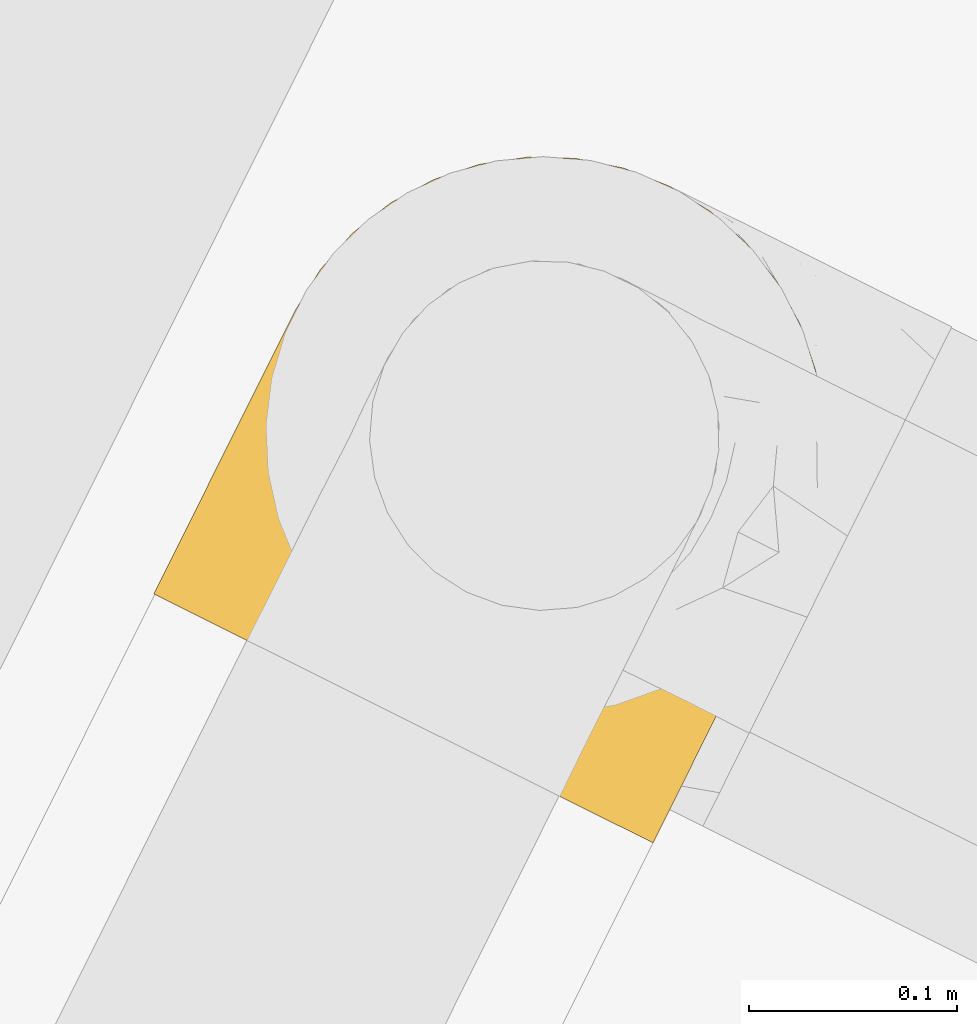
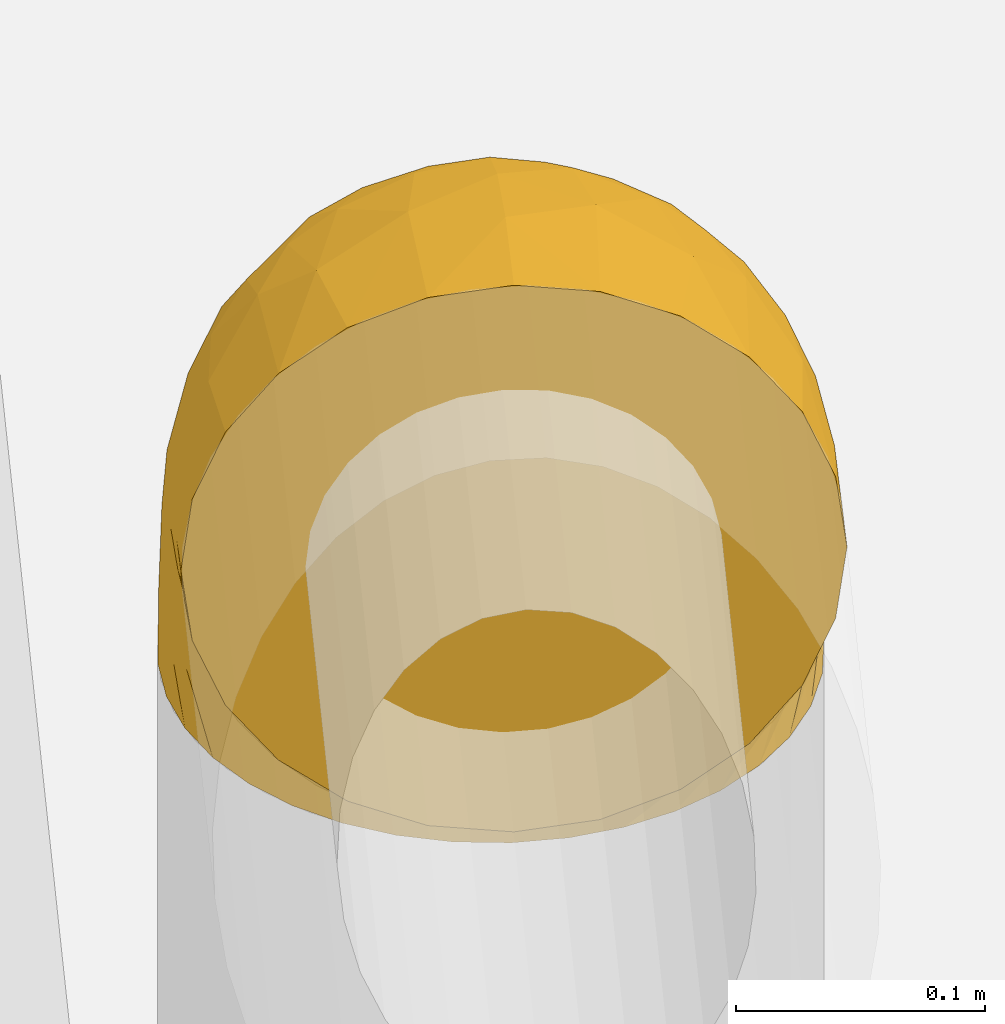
# One storey, part 56 of 91: 1 covering.
"""IFC2X3 building model written with IfcOpenShell, lengths in metres."""

from ifc_helpers import new_model, entity, si_unit, converted_unit, derived_unit, direction, frame, origin, place, context, subcontext, project, spatial, faceted_brep, element, save


model = new_model("IFC2X3")

# Units and contexts
model_context = context("Model", 3, precision=1e-05, world=origin(), true_north=direction((0.894925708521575, 0.446215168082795)))
context_of_model = context(None, 3, precision=1e-05, world=origin(), true_north=direction((0.894925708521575, 0.446215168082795)))
body_context = subcontext(model_context, "Body", "Model", "MODEL_VIEW")
ifc_project = project(units=[si_unit("LENGTHUNIT", "METRE"), si_unit("AREAUNIT", "SQUARE_METRE"), si_unit("VOLUMEUNIT", "CUBIC_METRE"), converted_unit("PLANEANGLEUNIT", "DEGREE", entity("IfcRatioMeasure", 0.0174532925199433), si_unit("PLANEANGLEUNIT", "RADIAN"), dimensions=[0, 0, 0, 0, 0, 0, 0]), si_unit("MASSUNIT", "GRAM", prefix="KILO"), si_unit("TIMEUNIT", "SECOND"), si_unit("FREQUENCYUNIT", "HERTZ"), si_unit("THERMODYNAMICTEMPERATUREUNIT", "DEGREE_CELSIUS"), derived_unit("THERMALTRANSMITTANCEUNIT", [(si_unit("MASSUNIT", "GRAM", prefix="KILO"), 1), (si_unit("THERMODYNAMICTEMPERATUREUNIT", "KELVIN"), -1), (si_unit("TIMEUNIT", "SECOND"), -3)]), derived_unit("VOLUMETRICFLOWRATEUNIT", [(si_unit("LENGTHUNIT", "METRE"), 3), (si_unit("TIMEUNIT", "SECOND"), -1)]), si_unit("ELECTRICCURRENTUNIT", "AMPERE"), si_unit("ELECTRICVOLTAGEUNIT", "VOLT"), si_unit("POWERUNIT", "WATT"), si_unit("FORCEUNIT", "NEWTON", prefix="KILO"), si_unit("ILLUMINANCEUNIT", "LUX"), si_unit("LUMINOUSFLUXUNIT", "LUMEN"), si_unit("LUMINOUSINTENSITYUNIT", "CANDELA"), si_unit("PRESSUREUNIT", "PASCAL")], contexts=[model_context, context_of_model])

# Site, building, storey
site_placement = place(None, frame((218.228324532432, 584.720189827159, 0.0), z_axis=(0.0, 0.0, 1.0), x_axis=(0.446215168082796, 0.894925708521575, 0.0)))
site = spatial("IfcSite", under=ifc_project, at=site_placement, Name="Default", CompositionType="ELEMENT")
building_placement = place(site_placement, origin())
building = spatial("IfcBuilding", under=site, at=building_placement, CompositionType="ELEMENT")
storey_placement = place(building_placement, origin())
storey = spatial("IfcBuildingStorey", under=building, at=storey_placement, Name="0 - Piano Terra", CompositionType="ELEMENT", Elevation=0.0)

# Covering
covering_placement = place(storey_placement, frame((0.503706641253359, -4.52096176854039, 3.74640472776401)))
element("IfcCovering", 1, at=covering_placement, inside=storey, Name="Isolamento tubazione:Default", ObjectType="Isolamento tubazione:Default", PredefinedType="INSULATION", context=body_context, shape_type="Brep", body=[
    faceted_brep([(0.199474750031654, 0.261805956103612, 0.00159527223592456), (0.220669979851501, 0.251922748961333, 0.00159527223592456), (0.23982740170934, 0.238508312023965, 0.00159527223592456), (0.256363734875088, 0.221970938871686, 0.00159527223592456), (0.26977594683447, 0.202814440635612, 0.00159527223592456), (0.279656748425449, 0.181622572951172, 0.00159527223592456), (0.28570743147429, 0.159039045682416, 0.00159527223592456), (0.287745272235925, 0.135745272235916, 0.00159527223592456), (0.285707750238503, 0.112453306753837, 0.00159527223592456), (0.279655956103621, 0.0898657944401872, 0.00159527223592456), (0.269772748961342, 0.0686705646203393, 0.00159527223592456), (0.256358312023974, 0.0495131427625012, 0.00159527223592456), (0.239820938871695, 0.0329768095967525, 0.00159527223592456), (0.220664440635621, 0.0195645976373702, 0.00159527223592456), (0.199472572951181, 0.0096837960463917, 0.00159527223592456), (0.176889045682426, 0.00363311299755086, 0.00159527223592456), (0.153595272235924, 0.0015952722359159, 0.00159527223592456), (0.138898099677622, 0.00288094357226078, 0.00159527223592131), (0.130303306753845, 0.00363279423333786, 0.00159527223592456), (0.107715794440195, 0.00968458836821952, 0.00159527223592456), (0.0865205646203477, 0.0195677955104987, 0.00159527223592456), (0.0673631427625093, 0.0329822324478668, 0.00159527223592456), (0.0508268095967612, 0.0495196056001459, 0.00159527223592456), (0.0374145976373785, 0.06867610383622, 0.00159527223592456), (0.0275337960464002, 0.0898679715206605, 0.00159527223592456), (0.0214831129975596, 0.112451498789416, 0.00159527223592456), (0.0194452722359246, 0.135745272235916, 0.00159527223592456), (0.0214827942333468, 0.159037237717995, 0.00159527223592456), (0.0275345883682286, 0.181624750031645, 0.00159527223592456), (0.0374177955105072, 0.202819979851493, 0.00159527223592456), (0.0508322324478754, 0.221977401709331, 0.00159527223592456), (0.0673696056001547, 0.238513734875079, 0.00159527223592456), (0.0865261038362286, 0.251925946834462, 0.00159527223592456), (0.107717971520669, 0.26180674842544, 0.00159527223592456), (0.130301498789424, 0.267857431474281, 0.00159527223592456), (0.138898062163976, 0.268609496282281, 0.00159527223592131), (0.153595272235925, 0.269895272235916, 0.00159527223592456), (0.176887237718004, 0.267857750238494, 0.00159527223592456), (0.00159527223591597, 0.135745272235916, 0.0194452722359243), (0.00159527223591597, 0.101024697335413, 0.0240163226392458), (0.00159527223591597, 0.0686702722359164, 0.0374179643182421), (0.00159527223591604, 0.0408868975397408, 0.0587368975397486), (0.0015952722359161, 0.0302274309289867, 0.072628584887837), (0.0015952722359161, 0.0195679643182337, 0.0865202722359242), (0.0015952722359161, 0.0128671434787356, 0.102697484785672), (0.00159527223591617, 0.00616632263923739, 0.118874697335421), (0.00159527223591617, 0.00355977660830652, 0.138673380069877), (0.00159527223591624, 0.0015952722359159, 0.153595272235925), (0.00159527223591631, 0.00616632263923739, 0.188315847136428), (0.00159527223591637, 0.0195679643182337, 0.220670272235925), (0.00159527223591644, 0.0408868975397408, 0.2484536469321), (0.00159527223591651, 0.0686702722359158, 0.269772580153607), (0.00159527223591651, 0.101024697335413, 0.283174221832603), (0.00159527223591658, 0.135745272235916, 0.287745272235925), (0.00159527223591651, 0.170465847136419, 0.283174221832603), (0.00159527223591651, 0.202820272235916, 0.269772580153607), (0.00159527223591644, 0.230603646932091, 0.2484536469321), (0.00159527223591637, 0.251922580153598, 0.220670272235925), (0.00159527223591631, 0.265324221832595, 0.188315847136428), (0.00159527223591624, 0.269895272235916, 0.153595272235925), (0.00159527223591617, 0.267930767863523, 0.138673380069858), (0.00159527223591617, 0.265324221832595, 0.118874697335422), (0.0015952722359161, 0.258623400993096, 0.102697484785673), (0.0015952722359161, 0.251922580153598, 0.0865202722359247), (0.00159527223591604, 0.241263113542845, 0.0726285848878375), (0.00159527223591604, 0.230603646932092, 0.0587368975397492), (0.00159527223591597, 0.202820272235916, 0.0374179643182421), (0.00159527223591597, 0.17046584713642, 0.0240163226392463), (0.0793389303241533, 0.173592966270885, 0.271314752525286), (0.0574203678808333, 0.135745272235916, 0.282246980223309), (0.11110013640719, 0.135745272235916, 0.265963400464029), (0.282246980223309, 0.135745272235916, 0.0574203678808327), (0.273936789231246, 0.159717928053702, 0.0820986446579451), (0.265963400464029, 0.135745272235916, 0.111100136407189), (0.251669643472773, 0.170985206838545, 0.130709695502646), (0.241156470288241, 0.200241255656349, 0.125328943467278), (0.219063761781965, 0.173639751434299, 0.179056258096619), (0.138231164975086, 0.167491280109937, 0.248670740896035), (0.124159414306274, 0.199265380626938, 0.242351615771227), (0.057017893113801, 0.255399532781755, 0.206901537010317), (0.188464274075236, 0.212938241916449, 0.184829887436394), (0.21482195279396, 0.223457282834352, 0.138701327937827), (0.191593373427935, 0.243942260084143, 0.133518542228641), (0.0819819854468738, 0.234087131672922, 0.231170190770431), (0.16057169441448, 0.135745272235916, 0.239520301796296), (0.178269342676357, 0.260833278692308, 0.0963262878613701), (0.152774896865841, 0.257743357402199, 0.144150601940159), (0.203933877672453, 0.135745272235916, 0.203933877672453), (0.239520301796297, 0.135745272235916, 0.16057169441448), (0.0926265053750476, 0.262693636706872, 0.174453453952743), (0.0427674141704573, 0.26735249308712, 0.174763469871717), (0.0603098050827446, 0.211715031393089, 0.257512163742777), (0.225253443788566, 0.23685787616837, 0.0890858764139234), (0.106232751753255, 0.251339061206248, 0.195203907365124), (0.0409357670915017, 0.269895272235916, 0.148415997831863), (0.0283269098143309, 0.269895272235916, 0.150075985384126), (0.0157180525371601, 0.269895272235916, 0.151735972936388), (0.0775952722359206, 0.269895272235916, 0.133231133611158), (0.0592655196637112, 0.269895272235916, 0.14082356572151), (0.212298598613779, 0.252999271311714, 0.0542155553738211), (0.175571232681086, 0.186228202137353, 0.216229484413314), (0.181506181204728, 0.159251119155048, 0.221437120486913), (0.142030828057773, 0.266914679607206, 0.114385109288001), (0.247977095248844, 0.225420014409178, 0.0534187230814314), (0.109075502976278, 0.269895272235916, 0.109075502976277), (0.0933353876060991, 0.269895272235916, 0.121153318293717), (0.269211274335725, 0.186827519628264, 0.0692840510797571), (0.156043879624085, 0.208621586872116, 0.216476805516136), (0.123868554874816, 0.235964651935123, 0.209477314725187), (0.150188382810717, 0.244360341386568, 0.178111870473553), (0.162845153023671, 0.267685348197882, 0.0727455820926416), (0.151735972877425, 0.269895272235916, 0.0157180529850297), (0.150075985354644, 0.269895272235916, 0.0283269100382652), (0.148415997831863, 0.269895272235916, 0.0409357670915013), (0.133231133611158, 0.269895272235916, 0.0775952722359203), (0.121153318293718, 0.269895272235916, 0.0933353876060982), (0.115114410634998, 0.269895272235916, 0.101205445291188), (0.239896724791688, 0.21892116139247, 0.0985026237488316), (0.117252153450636, 0.219832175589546, 0.230568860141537), (0.140823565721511, 0.269895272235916, 0.0592655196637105), (0.086233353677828, 0.257440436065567, 0.0459388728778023), (0.108928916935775, 0.26633905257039, 0.0581385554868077), (0.10151694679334, 0.261505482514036, 0.034828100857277), (0.0282177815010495, 0.265515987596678, 0.116556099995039), (0.0488021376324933, 0.267416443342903, 0.118774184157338), (0.0233658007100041, 0.258379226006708, 0.0967572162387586), (0.057055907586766, 0.234200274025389, 0.0267051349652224), (0.0379394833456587, 0.2096322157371, 0.0183768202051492), (0.0175473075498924, 0.247613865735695, 0.0779077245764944), (0.0186508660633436, 0.238549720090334, 0.0651642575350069), (0.0712470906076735, 0.262888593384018, 0.0857137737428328), (0.0188530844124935, 0.16297331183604, 0.0129209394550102), (0.0160462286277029, 0.224278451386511, 0.0507267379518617), (0.030145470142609, 0.228157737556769, 0.0483204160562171), (0.0172767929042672, 0.20377312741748, 0.0344198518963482), (0.0898107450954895, 0.265964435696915, 0.0825972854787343), (0.0128211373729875, 0.172729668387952, 0.0217256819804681), (0.0240178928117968, 0.190556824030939, 0.020854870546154), (0.0412634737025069, 0.229549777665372, 0.0412635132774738), (0.0518606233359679, 0.248264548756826, 0.0624822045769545), (0.0142171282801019, 0.135745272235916, 0.0142171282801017), (0.0478490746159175, 0.228925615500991, 0.0322552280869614), (0.0703790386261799, 0.254010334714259, 0.0575657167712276), (0.0663251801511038, 0.267242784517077, 0.109061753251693), (0.0382210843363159, 0.259428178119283, 0.094700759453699), (0.117739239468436, 0.265732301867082, 0.0267645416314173), (0.11613299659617, 0.266097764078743, 0.0384038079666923), (0.120325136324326, 0.268138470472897, 0.0554200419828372), (0.0725214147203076, 0.244552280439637, 0.0209965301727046), (0.0337025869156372, 0.211919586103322, 0.0280072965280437), (0.10241564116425, 0.266477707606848, 0.0701367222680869), (0.0479963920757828, 0.257840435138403, 0.0861174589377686), (0.0194576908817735, 0.267289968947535, 0.126009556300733), (0.0332297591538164, 0.242459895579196, 0.0648331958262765), (0.0186511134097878, 0.0329408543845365, 0.0651641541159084), (0.0160469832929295, 0.0472120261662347, 0.0507265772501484), (0.0332307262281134, 0.0290300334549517, 0.0648336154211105), (0.0570503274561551, 0.0372947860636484, 0.0267056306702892), (0.0124987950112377, 0.106124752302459, 0.019730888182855), (0.0725165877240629, 0.0269410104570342, 0.0209997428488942), (0.120317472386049, 0.0033531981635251, 0.055420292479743), (0.133231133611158, 0.0015952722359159, 0.0775952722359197), (0.108926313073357, 0.0051513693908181, 0.0581446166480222), (0.0172784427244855, 0.0677158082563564, 0.0344201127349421), (0.0703674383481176, 0.0174874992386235, 0.0575584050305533), (0.0862283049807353, 0.0140509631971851, 0.0459445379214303), (0.0199234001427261, 0.10553101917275, 0.0124412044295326), (0.0240181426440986, 0.0809360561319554, 0.020852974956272), (0.0283269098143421, 0.0015952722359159, 0.150075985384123), (0.0157180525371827, 0.0015952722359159, 0.151735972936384), (0.0712466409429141, 0.00860216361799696, 0.0857133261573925), (0.0518636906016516, 0.0232262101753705, 0.0624792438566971), (0.0488021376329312, 0.0040741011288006, 0.118774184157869), (0.0775952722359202, 0.0015952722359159, 0.133231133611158), (0.0592655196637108, 0.0015952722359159, 0.14082356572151), (0.148415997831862, 0.0015952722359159, 0.0409357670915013), (0.14082356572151, 0.0015952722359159, 0.0592655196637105), (0.117734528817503, 0.00575946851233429, 0.0267635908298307), (0.0233657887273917, 0.0131113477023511, 0.0967571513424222), (0.0175473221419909, 0.0238766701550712, 0.0779077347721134), (0.0282177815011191, 0.00597455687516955, 0.116556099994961), (0.0478410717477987, 0.0425746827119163, 0.0322502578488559), (0.0379359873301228, 0.0618652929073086, 0.0183734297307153), (0.0337015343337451, 0.0595746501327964, 0.0280045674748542), (0.151735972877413, 0.0015952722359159, 0.0157180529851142), (0.150075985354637, 0.0015952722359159, 0.0283269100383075), (0.101511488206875, 0.00998674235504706, 0.0348301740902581), (0.0412589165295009, 0.0419468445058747, 0.0412596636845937), (0.102411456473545, 0.00501312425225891, 0.0701406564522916), (0.0898060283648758, 0.00552776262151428, 0.0825925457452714), (0.109075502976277, 0.0015952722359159, 0.109075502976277), (0.116128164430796, 0.00539385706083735, 0.0384043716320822), (0.0663252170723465, 0.0042477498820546, 0.109061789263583), (0.121153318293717, 0.0015952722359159, 0.0933353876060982), (0.0479965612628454, 0.0136499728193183, 0.0861177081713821), (0.0382211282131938, 0.0120623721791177, 0.0947007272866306), (0.115114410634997, 0.0015952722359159, 0.101205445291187), (0.0933353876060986, 0.0015952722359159, 0.121153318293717), (0.0301467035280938, 0.04333163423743, 0.0483209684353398), (0.019457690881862, 0.00420057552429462, 0.126009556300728), (0.0409357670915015, 0.0015952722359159, 0.148415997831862), (0.0603098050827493, 0.0597755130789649, 0.257512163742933), (0.212294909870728, 0.0184892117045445, 0.0542150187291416), (0.178268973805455, 0.0106570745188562, 0.0963259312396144), (0.191589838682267, 0.0275474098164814, 0.133521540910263), (0.225247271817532, 0.0346285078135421, 0.0890885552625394), (0.0926265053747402, 0.00879690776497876, 0.174453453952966), (0.0427674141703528, 0.00413805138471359, 0.174763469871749), (0.142030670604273, 0.00457581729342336, 0.114384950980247), (0.188454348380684, 0.0585543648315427, 0.184842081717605), (0.241149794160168, 0.0712444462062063, 0.125336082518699), (0.219063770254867, 0.0978508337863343, 0.179056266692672), (0.239892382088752, 0.0525652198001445, 0.0985045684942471), (0.269208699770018, 0.0846596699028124, 0.0692885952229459), (0.0570178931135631, 0.0160910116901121, 0.206901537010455), (0.123868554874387, 0.0355258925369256, 0.209477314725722), (0.117252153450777, 0.0516583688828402, 0.230568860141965), (0.0819819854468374, 0.0374034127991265, 0.231170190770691), (0.0793389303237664, 0.0978975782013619, 0.271314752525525), (0.106232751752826, 0.020151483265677, 0.195203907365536), (0.138231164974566, 0.103999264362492, 0.248670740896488), (0.124159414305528, 0.0722251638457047, 0.242351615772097), (0.214821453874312, 0.048036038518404, 0.138706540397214), (0.162844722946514, 0.00380513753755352, 0.0727457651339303), (0.175571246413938, 0.0852623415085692, 0.216229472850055), (0.150188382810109, 0.0271302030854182, 0.178111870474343), (0.152774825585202, 0.0137471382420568, 0.144150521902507), (0.247971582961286, 0.0460646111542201, 0.0534190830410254), (0.181506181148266, 0.112239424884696, 0.221437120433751), (0.273936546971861, 0.11177089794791, 0.0820983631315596), (0.251423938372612, 0.10794286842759, 0.135045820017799), (0.156036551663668, 0.062868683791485, 0.216481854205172)], [[[0, 1, 2, 3, 4, 5, 6, 7, 8, 9, 10, 11, 12, 13, 14, 15, 16, 17, 18, 19, 20, 21, 22, 23, 24, 25, 26, 27, 28, 29, 30, 31, 32, 33, 34, 35, 36, 37]], [[38, 39, 40, 41, 42, 43, 44, 45, 46, 47, 48, 49, 50, 51, 52, 53, 54, 55, 56, 57, 58, 59, 60, 61, 62, 63, 64, 65, 66, 67]], [[68, 69, 70]], [[69, 54, 53]], [[71, 72, 73]], [[74, 75, 76]], [[68, 77, 78]], [[79, 58, 57]], [[68, 55, 54]], [[80, 81, 82]], [[83, 57, 56]], [[84, 77, 70]], [[85, 86, 82]], [[76, 87, 88]], [[89, 90, 79]], [[91, 83, 56]], [[92, 82, 81]], [[89, 93, 86]], [[90, 94, 95, 96, 59]], [[90, 97, 98, 94]], [[99, 1, 0]], [[59, 58, 90]], [[100, 101, 76]], [[102, 86, 85]], [[89, 102, 97]], [[100, 78, 77]], [[103, 99, 92]], [[102, 104, 105, 97]], [[55, 91, 56]], [[74, 73, 72]], [[72, 6, 5]], [[4, 106, 5]], [[80, 107, 100]], [[106, 72, 5]], [[82, 99, 85]], [[3, 103, 4]], [[108, 109, 93]], [[71, 7, 6]], [[76, 75, 80]], [[103, 3, 2]], [[54, 69, 68]], [[110, 36, 111, 112, 113]], [[2, 1, 103]], [[110, 114, 102]], [[102, 114, 115, 116, 104]], [[36, 110, 37]], [[4, 103, 106]], [[99, 37, 85]], [[79, 93, 89]], [[102, 85, 110]], [[117, 103, 92]], [[117, 106, 103]], [[1, 99, 103]], [[107, 108, 118]], [[37, 99, 0]], [[73, 74, 88]], [[89, 86, 102]], [[68, 78, 91]], [[82, 86, 109]], [[80, 82, 109]], [[82, 92, 99]], [[68, 91, 55]], [[118, 91, 78]], [[6, 72, 71]], [[74, 106, 75]], [[80, 75, 81]], [[117, 81, 75]], [[57, 83, 79]], [[83, 108, 93]], [[37, 110, 85]], [[110, 113, 119, 114]], [[81, 117, 92]], [[106, 117, 75]], [[70, 77, 68]], [[84, 87, 101]], [[77, 84, 101]], [[80, 100, 76]], [[76, 101, 87]], [[77, 101, 100]], [[83, 93, 79]], [[86, 93, 109]], [[118, 108, 83]], [[80, 109, 108]], [[91, 118, 83]], [[107, 118, 78]], [[100, 107, 78]], [[108, 107, 80]], [[79, 90, 58]], [[90, 89, 97]], [[88, 74, 76]], [[106, 74, 72]], [[120, 121, 122]], [[60, 59, 96, 95, 61]], [[123, 124, 125]], [[126, 29, 127]], [[127, 29, 28]], [[123, 98, 124]], [[128, 129, 65]], [[104, 130, 105]], [[131, 27, 26]], [[62, 123, 63]], [[132, 133, 134]], [[104, 116, 135]], [[38, 67, 136]], [[137, 136, 134]], [[138, 133, 139]], [[140, 38, 136]], [[131, 136, 137]], [[126, 141, 142]], [[127, 28, 137]], [[124, 143, 144]], [[145, 33, 32]], [[65, 129, 132]], [[146, 122, 147]], [[148, 122, 31]], [[149, 127, 137]], [[33, 113, 112]], [[35, 34, 112, 111, 36]], [[134, 67, 66]], [[120, 126, 142]], [[33, 145, 113]], [[140, 131, 26]], [[141, 126, 127]], [[126, 120, 148]], [[30, 148, 31]], [[33, 112, 34]], [[28, 27, 131]], [[126, 30, 29]], [[121, 147, 122]], [[31, 122, 32]], [[128, 125, 144]], [[115, 121, 150]], [[121, 115, 114]], [[97, 105, 143]], [[130, 104, 135]], [[139, 142, 138]], [[143, 151, 144]], [[123, 94, 98]], [[62, 61, 152]], [[123, 62, 152]], [[98, 97, 124]], [[143, 124, 97]], [[125, 124, 144]], [[126, 148, 30]], [[122, 148, 120]], [[66, 65, 132]], [[149, 134, 138]], [[125, 128, 64]], [[123, 125, 63]], [[64, 128, 65]], [[64, 63, 125]], [[144, 151, 129]], [[144, 129, 128]], [[129, 153, 132]], [[133, 132, 153]], [[134, 66, 132]], [[153, 151, 139]], [[138, 134, 133]], [[153, 139, 133]], [[142, 139, 130]], [[146, 32, 122]], [[113, 145, 119]], [[94, 152, 95]], [[28, 131, 137]], [[136, 131, 140]], [[134, 136, 67]], [[134, 149, 137]], [[141, 149, 138]], [[149, 141, 127]], [[142, 141, 138]], [[121, 120, 150]], [[147, 121, 114]], [[120, 142, 150]], [[150, 116, 115]], [[135, 150, 142]], [[150, 135, 116]], [[130, 135, 142]], [[114, 119, 147]], [[146, 119, 145]], [[119, 146, 147]], [[32, 146, 145]], [[105, 130, 143]], [[130, 139, 151]], [[130, 151, 143]], [[129, 151, 153]], [[95, 152, 61]], [[123, 152, 94]], [[154, 155, 156]], [[22, 157, 23]], [[38, 140, 158]], [[22, 159, 157]], [[160, 161, 162]], [[39, 158, 163]], [[164, 157, 165]], [[166, 24, 167]], [[168, 169, 47, 46, 45]], [[164, 170, 171]], [[172, 173, 174]], [[175, 176, 177]], [[178, 42, 179]], [[41, 155, 154]], [[39, 163, 40]], [[43, 180, 44]], [[181, 182, 157]], [[182, 183, 167]], [[166, 167, 158]], [[19, 177, 20]], [[17, 16, 184, 185, 18]], [[182, 167, 24]], [[23, 182, 24]], [[186, 21, 20]], [[181, 164, 187]], [[188, 165, 162]], [[22, 21, 159]], [[170, 189, 190]], [[159, 186, 165]], [[191, 20, 177]], [[173, 172, 192]], [[167, 163, 158]], [[23, 157, 182]], [[185, 175, 19]], [[18, 185, 19]], [[162, 165, 186]], [[193, 188, 162]], [[166, 26, 25]], [[194, 170, 192]], [[154, 195, 179]], [[190, 189, 196]], [[172, 174, 180]], [[170, 190, 197]], [[192, 197, 173]], [[156, 198, 171]], [[199, 45, 44]], [[172, 178, 195]], [[180, 200, 199]], [[200, 180, 174]], [[178, 180, 43]], [[192, 172, 195]], [[186, 159, 21]], [[157, 159, 165]], [[183, 163, 167]], [[155, 198, 156]], [[180, 178, 172]], [[42, 41, 179]], [[178, 43, 42]], [[154, 179, 41]], [[178, 179, 195]], [[155, 41, 40]], [[154, 156, 194]], [[40, 163, 155]], [[198, 155, 163]], [[163, 187, 198]], [[171, 198, 187]], [[164, 171, 187]], [[171, 170, 194]], [[175, 177, 19]], [[176, 160, 191]], [[199, 168, 45]], [[38, 158, 39]], [[140, 26, 166]], [[140, 166, 158]], [[24, 166, 25]], [[164, 181, 157]], [[183, 181, 187]], [[181, 183, 182]], [[163, 183, 187]], [[160, 162, 186]], [[193, 162, 161]], [[188, 193, 196]], [[164, 165, 188]], [[189, 170, 164]], [[196, 189, 188]], [[188, 189, 164]], [[191, 160, 186]], [[176, 161, 160]], [[20, 191, 186]], [[176, 191, 177]], [[194, 192, 195]], [[170, 197, 192]], [[154, 194, 195]], [[194, 156, 171]], [[180, 199, 44]], [[168, 199, 200]], [[201, 51, 50]], [[15, 202, 203]], [[204, 202, 205]], [[173, 206, 207]], [[207, 200, 174, 173]], [[47, 207, 48]], [[208, 190, 196, 193, 161]], [[209, 210, 211]], [[13, 202, 14]], [[208, 173, 197, 190]], [[212, 213, 210]], [[48, 207, 214]], [[69, 53, 52]], [[203, 202, 204]], [[215, 216, 217]], [[201, 218, 51]], [[202, 15, 14]], [[70, 69, 218]], [[217, 214, 219]], [[220, 218, 221]], [[201, 50, 217]], [[49, 217, 50]], [[220, 70, 218]], [[222, 209, 204]], [[223, 161, 176, 175]], [[224, 209, 211]], [[204, 225, 226]], [[206, 208, 226]], [[16, 15, 223]], [[15, 203, 223]], [[13, 12, 227]], [[214, 49, 48]], [[202, 227, 205]], [[69, 52, 218]], [[51, 218, 52]], [[202, 13, 227]], [[217, 219, 215]], [[228, 87, 84]], [[73, 229, 71]], [[88, 211, 230]], [[211, 88, 87]], [[11, 227, 12]], [[9, 213, 10]], [[10, 213, 227]], [[229, 8, 71]], [[173, 208, 206]], [[7, 71, 8]], [[213, 229, 230]], [[226, 208, 203]], [[212, 205, 227]], [[228, 220, 224]], [[213, 230, 210]], [[225, 204, 209]], [[208, 223, 203]], [[10, 227, 11]], [[9, 8, 229]], [[226, 225, 219]], [[203, 204, 226]], [[204, 205, 222]], [[216, 201, 217]], [[218, 201, 221]], [[88, 230, 73]], [[229, 213, 9]], [[212, 222, 205]], [[210, 209, 222]], [[219, 214, 206]], [[217, 49, 214]], [[161, 223, 208]], [[223, 175, 185, 184, 16]], [[213, 212, 227]], [[222, 212, 210]], [[224, 220, 221]], [[70, 220, 84]], [[224, 221, 231]], [[228, 211, 87]], [[220, 228, 84]], [[211, 228, 224]], [[226, 219, 206]], [[219, 225, 215]], [[225, 209, 215]], [[216, 231, 221]], [[231, 215, 209]], [[201, 216, 221]], [[215, 231, 216]], [[224, 231, 209]], [[207, 47, 169, 168, 200]], [[214, 207, 206]], [[210, 230, 211]], [[73, 230, 229]]]),
])

save(model, "model.ifc")
